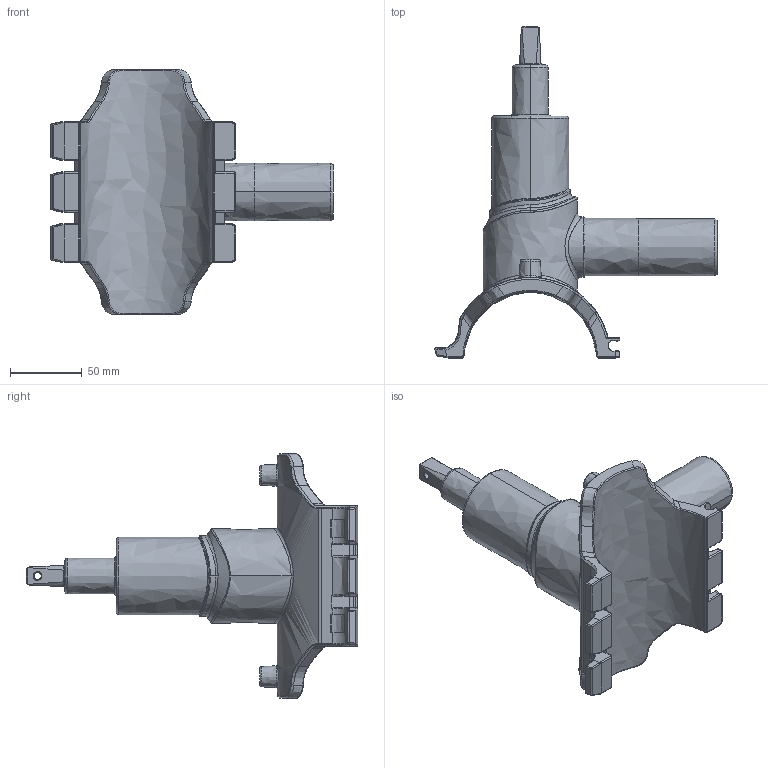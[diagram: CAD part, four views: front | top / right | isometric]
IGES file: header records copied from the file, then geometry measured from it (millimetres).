
Start section:  PTC IGES file: dav2_d90_40_01.igs
Global section: file name: dav2_d90_40_01.igs; native system: Creo Parametric by PTC Inc.; preprocessor: 2019030; author: mikulicp; organization: Unknown; date: 20210622.135823; units: millimetre
Bounding box: 196.41 x 230.7 x 170 mm (x, y, z)
Surface area: 98501.6 mm2 (no closed solid volume)
Topology: 0 solids, 0 shells, 573 faces, 2780 edges, 2774 vertices
Faces by surface type: bspline 573
